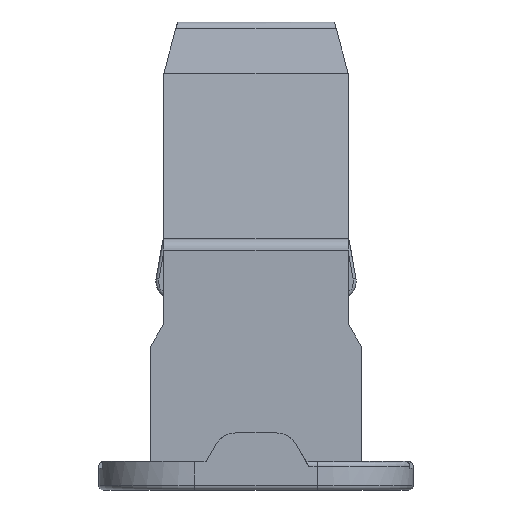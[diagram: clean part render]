
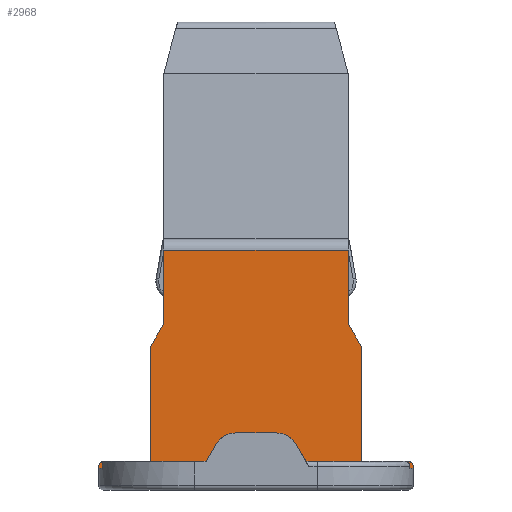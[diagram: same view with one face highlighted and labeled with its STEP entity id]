
A CAD part, front view. The second image highlights one B-rep face of the part: STEP entity #2968.
In plain terms, the highlighted planar face has unit normal (0, -1, 0).
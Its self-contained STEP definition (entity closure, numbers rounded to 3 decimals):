
#145=DIRECTION('',(0.,0.,-1.));
#146=VECTOR('',#145,5.08);
#147=CARTESIAN_POINT('',(-4.712,-3.099,-14.478));
#148=LINE('',#147,#146);
#209=DIRECTION('',(-1.,0.,0.));
#210=VECTOR('',#209,2.083);
#211=CARTESIAN_POINT('',(6.795,-3.099,-19.558));
#212=LINE('',#211,#210);
#281=DIRECTION('',(1.,0.,0.));
#282=VECTOR('',#281,2.083);
#283=CARTESIAN_POINT('',(-6.795,-3.099,-19.558));
#284=LINE('',#283,#282);
#635=DIRECTION('',(0.,0.,-1.));
#636=VECTOR('',#635,5.08);
#637=CARTESIAN_POINT('',(4.712,-3.099,-14.478));
#638=LINE('',#637,#636);
#647=DIRECTION('',(-1.,0.,0.));
#648=VECTOR('',#647,8.204);
#649=CARTESIAN_POINT('',(4.102,-3.099,-10.16));
#650=LINE('',#649,#648);
#651=DIRECTION('',(0.,0.,-1.));
#652=VECTOR('',#651,3.262);
#653=CARTESIAN_POINT('',(4.102,-3.099,-10.16));
#654=LINE('',#653,#652);
#655=DIRECTION('',(0.5,0.,-0.866));
#656=VECTOR('',#655,1.219);
#657=CARTESIAN_POINT('',(4.102,-3.099,-13.422));
#658=LINE('',#657,#656);
#659=CARTESIAN_POINT('',(6.795,-3.099,-19.761));
#660=DIRECTION('',(0.,-1.,0.));
#661=DIRECTION('',(1.,0.,0.));
#662=AXIS2_PLACEMENT_3D('',#659,#660,#661);
#664=DIRECTION('',(1.,0.,0.));
#665=VECTOR('',#664,1.397);
#666=CARTESIAN_POINT('',(-0.699,-3.099,-19.558));
#667=LINE('',#666,#665);
#668=DIRECTION('',(0.,0.,-1.));
#669=VECTOR('',#668,0.305);
#670=CARTESIAN_POINT('',(-0.699,-3.099,-19.558));
#671=LINE('',#670,#669);
#672=CARTESIAN_POINT('',(-6.795,-3.099,-19.761));
#673=DIRECTION('',(0.,-1.,0.));
#674=DIRECTION('',(0.,0.,1.));
#675=AXIS2_PLACEMENT_3D('',#672,#673,#674);
#677=DIRECTION('',(0.5,0.,0.866));
#678=VECTOR('',#677,1.219);
#679=CARTESIAN_POINT('',(-4.712,-3.099,-14.478));
#680=LINE('',#679,#678);
#681=DIRECTION('',(0.,0.,-1.));
#682=VECTOR('',#681,3.262);
#683=CARTESIAN_POINT('',(-4.102,-3.099,-10.16));
#684=LINE('',#683,#682);
#1122=DIRECTION('',(0.,0.,-1.));
#1123=VECTOR('',#1122,0.102);
#1124=CARTESIAN_POINT('',(6.998,-3.099,-19.761));
#1125=LINE('',#1124,#1123);
#1126=DIRECTION('',(-1.,0.,0.));
#1127=VECTOR('',#1126,6.299);
#1128=CARTESIAN_POINT('',(-0.699,-3.099,-19.863));
#1129=LINE('',#1128,#1127);
#1190=DIRECTION('',(-1.,0.,0.));
#1191=VECTOR('',#1190,6.299);
#1192=CARTESIAN_POINT('',(6.998,-3.099,-19.863));
#1193=LINE('',#1192,#1191);
#1198=DIRECTION('',(0.,0.,-1.));
#1199=VECTOR('',#1198,0.102);
#1200=CARTESIAN_POINT('',(-6.998,-3.099,-19.761));
#1201=LINE('',#1200,#1199);
#1359=DIRECTION('',(0.,0.,-1.));
#1360=VECTOR('',#1359,0.305);
#1361=CARTESIAN_POINT('',(0.699,-3.099,-19.558));
#1362=LINE('',#1361,#1360);
#1914=CARTESIAN_POINT('',(-6.998,-3.099,-19.863));
#1916=VERTEX_POINT('',#1914);
#1925=CARTESIAN_POINT('',(6.998,-3.099,-19.863));
#1927=VERTEX_POINT('',#1925);
#1961=CARTESIAN_POINT('',(-4.712,-3.099,-19.558));
#1963=VERTEX_POINT('',#1961);
#1965=CARTESIAN_POINT('',(4.712,-3.099,-19.558));
#1967=VERTEX_POINT('',#1965);
#1971=CARTESIAN_POINT('',(-4.712,-3.099,-14.478));
#1972=VERTEX_POINT('',#1971);
#1975=CARTESIAN_POINT('',(4.712,-3.099,-14.478));
#1976=VERTEX_POINT('',#1975);
#1979=CARTESIAN_POINT('',(-0.699,-3.099,-19.863));
#1980=VERTEX_POINT('',#1979);
#2013=CARTESIAN_POINT('',(-4.102,-3.099,-10.16));
#2015=VERTEX_POINT('',#2013);
#2019=CARTESIAN_POINT('',(4.102,-3.099,-10.16));
#2020=VERTEX_POINT('',#2019);
#2021=CARTESIAN_POINT('',(-4.102,-3.099,-13.422));
#2022=VERTEX_POINT('',#2021);
#2107=CARTESIAN_POINT('',(6.998,-3.099,-19.761));
#2108=VERTEX_POINT('',#2107);
#2109=CARTESIAN_POINT('',(6.795,-3.099,-19.558));
#2110=VERTEX_POINT('',#2109);
#2121=CARTESIAN_POINT('',(-6.795,-3.099,-19.558));
#2122=CARTESIAN_POINT('',(-6.998,-3.099,-19.761));
#2123=VERTEX_POINT('',#2121);
#2124=VERTEX_POINT('',#2122);
#2149=CARTESIAN_POINT('',(4.102,-3.099,-13.422));
#2150=VERTEX_POINT('',#2149);
#2167=CARTESIAN_POINT('',(-0.699,-3.099,-19.558));
#2168=CARTESIAN_POINT('',(0.699,-3.099,-19.558));
#2169=VERTEX_POINT('',#2167);
#2170=VERTEX_POINT('',#2168);
#2171=CARTESIAN_POINT('',(0.699,-3.099,-19.863));
#2172=VERTEX_POINT('',#2171);
#2932=CARTESIAN_POINT('',(-4.712,-3.099,-9.652));
#2933=DIRECTION('',(0.,-1.,0.));
#2934=DIRECTION('',(0.,0.,-1.));
#2935=AXIS2_PLACEMENT_3D('',#2932,#2933,#2934);
#2936=PLANE('',#2935);
#2938=ORIENTED_EDGE('',*,*,#2937,.F.);
#2939=ORIENTED_EDGE('',*,*,#2880,.T.);
#2940=ORIENTED_EDGE('',*,*,#2912,.T.);
#2941=ORIENTED_EDGE('',*,*,#2925,.T.);
#2942=ORIENTED_EDGE('',*,*,#2330,.F.);
#2944=ORIENTED_EDGE('',*,*,#2943,.F.);
#2946=ORIENTED_EDGE('',*,*,#2945,.T.);
#2948=ORIENTED_EDGE('',*,*,#2947,.T.);
#2950=ORIENTED_EDGE('',*,*,#2949,.F.);
#2951=ORIENTED_EDGE('',*,*,#2364,.F.);
#2953=ORIENTED_EDGE('',*,*,#2952,.T.);
#2955=ORIENTED_EDGE('',*,*,#2954,.T.);
#2957=ORIENTED_EDGE('',*,*,#2956,.F.);
#2959=ORIENTED_EDGE('',*,*,#2958,.F.);
#2960=ORIENTED_EDGE('',*,*,#2385,.T.);
#2961=ORIENTED_EDGE('',*,*,#2282,.F.);
#2963=ORIENTED_EDGE('',*,*,#2962,.T.);
#2965=ORIENTED_EDGE('',*,*,#2964,.F.);
#2966=EDGE_LOOP('',(#2938,#2939,#2940,#2941,#2942,#2944,#2946,#2948,#2950,#2951,
#2953,#2955,#2957,#2959,#2960,#2961,#2963,#2965));
#2967=FACE_OUTER_BOUND('',#2966,.F.);
#2968=ADVANCED_FACE('',(#2967),#2936,.T.);
#663=CIRCLE('',#662,0.203);
#676=CIRCLE('',#675,0.203);
#2282=EDGE_CURVE('',#1972,#1963,#148,.T.);
#2330=EDGE_CURVE('',#2110,#1967,#212,.T.);
#2364=EDGE_CURVE('',#2169,#2170,#667,.T.);
#2385=EDGE_CURVE('',#2123,#1963,#284,.T.);
#2880=EDGE_CURVE('',#2020,#2150,#654,.T.);
#2912=EDGE_CURVE('',#2150,#1976,#658,.T.);
#2925=EDGE_CURVE('',#1976,#1967,#638,.T.);
#2937=EDGE_CURVE('',#2020,#2015,#650,.T.);
#2943=EDGE_CURVE('',#2108,#2110,#663,.T.);
#2945=EDGE_CURVE('',#2108,#1927,#1125,.T.);
#2947=EDGE_CURVE('',#1927,#2172,#1193,.T.);
#2949=EDGE_CURVE('',#2170,#2172,#1362,.T.);
#2952=EDGE_CURVE('',#2169,#1980,#671,.T.);
#2954=EDGE_CURVE('',#1980,#1916,#1129,.T.);
#2956=EDGE_CURVE('',#2124,#1916,#1201,.T.);
#2958=EDGE_CURVE('',#2123,#2124,#676,.T.);
#2962=EDGE_CURVE('',#1972,#2022,#680,.T.);
#2964=EDGE_CURVE('',#2015,#2022,#684,.T.);
